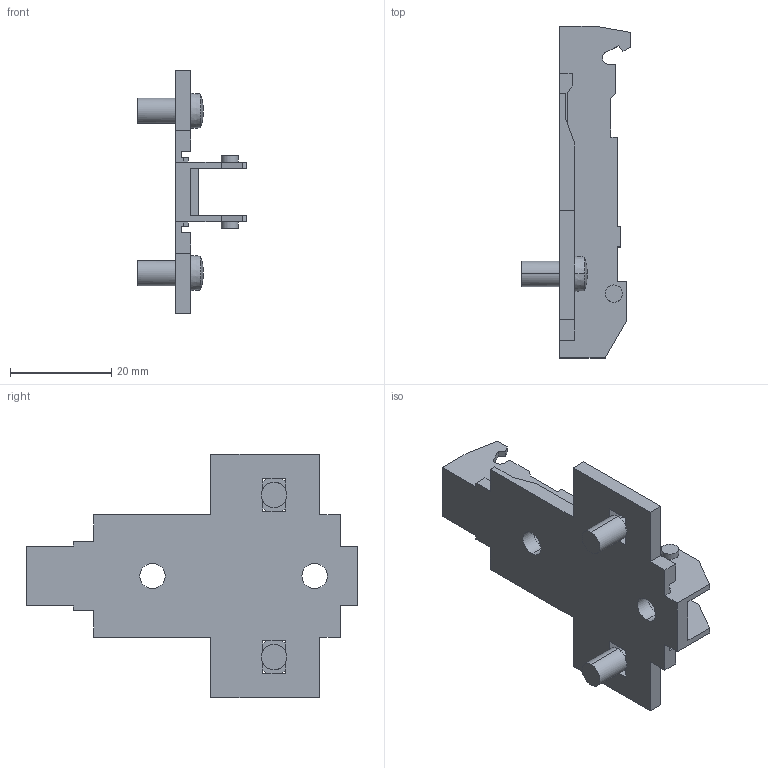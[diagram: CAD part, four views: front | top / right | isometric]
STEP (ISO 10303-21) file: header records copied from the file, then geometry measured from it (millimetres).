
FILE_DESCRIPTION (( 'STEP AP214' ), '1' );
FILE_NAME ('1D_Kreuzmontageplatte 28_32_5mm_Dübel_kurz_3,5.step', '2010-11-18T10:20:31', ( 'grass' ), ( '' ), 'SwSTEP 2.0', 'SolidWorks 2010', '' );
FILE_SCHEMA (( 'AUTOMOTIVE_DESIGN' ));
Length unit declared in the file: millimetre
Products named in the file (1): 1D_Kreuzmontageplatte 28_32_5mm_Dübel_kurz_3,5
Bounding box: 21.5 x 65.5 x 48 mm (x, y, z)
Volume: 7024 mm3; surface area: 7591.4 mm2
Topology: 1 solids, 1 shells, 126 faces, 388 edges, 250 vertices
Faces by surface type: plane 96, cylinder 22, sphere 4, cone 4
Entity records: 4374 total; most frequent: ORIENTED_EDGE 776, CARTESIAN_POINT 765, DIRECTION 722, EDGE_CURVE 388, LINE 308, VECTOR 308, VERTEX_POINT 250, AXIS2_PLACEMENT_3D 207
